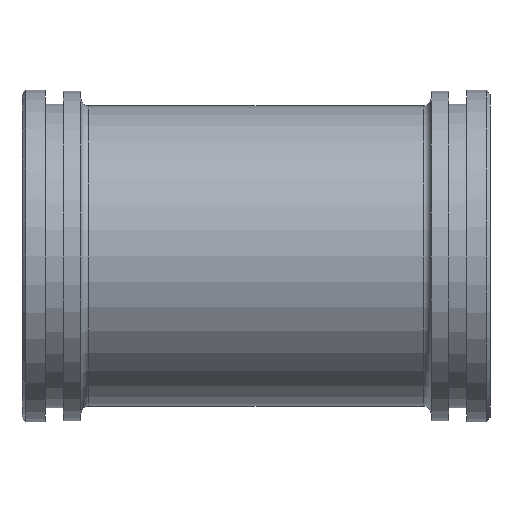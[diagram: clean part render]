
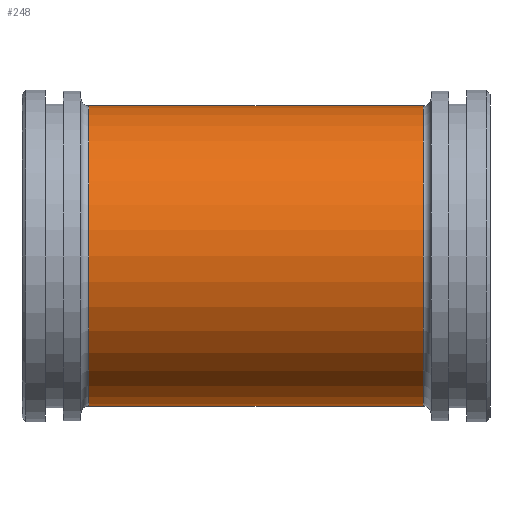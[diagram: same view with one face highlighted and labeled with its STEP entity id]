
A CAD part, front view. The second image highlights one B-rep face of the part: STEP entity #248.
In plain terms, the highlighted cylindrical face has radius 38.5 mm (diameter 77 mm), a full revolution.
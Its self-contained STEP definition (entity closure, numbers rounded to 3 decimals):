
#20=CYLINDRICAL_SURFACE($,#289,38.5);
#50=FACE_BOUND($,#106,.T.);
#69=FACE_OUTER_BOUND($,#105,.T.);
#105=EDGE_LOOP($,(#215));
#106=EDGE_LOOP($,(#216));
#134=CIRCLE($,#288,38.5);
#135=CIRCLE($,#290,38.5);
#156=VERTEX_POINT($,#438);
#157=VERTEX_POINT($,#441);
#178=EDGE_CURVE($,#156,#156,#134,.T.);
#179=EDGE_CURVE($,#157,#157,#135,.T.);
#215=ORIENTED_EDGE($,*,*,#179,.F.);
#216=ORIENTED_EDGE($,*,*,#178,.T.);
#248=ADVANCED_FACE($,(#69,#50),#20,.T.);
#288=AXIS2_PLACEMENT_3D($,#439,#364,#365);
#289=AXIS2_PLACEMENT_3D($,#440,#366,#367);
#290=AXIS2_PLACEMENT_3D($,#442,#368,#369);
#364=DIRECTION('center_axis',(1.,0.,0.));
#365=DIRECTION('ref_axis',(0.,1.,0.));
#366=DIRECTION('center_axis',(1.,0.,0.));
#367=DIRECTION('ref_axis',(0.,1.,0.));
#368=DIRECTION('center_axis',(1.,0.,0.));
#369=DIRECTION('ref_axis',(0.,1.,0.));
#438=CARTESIAN_POINT('',(-42.9,38.5,0.));
#439=CARTESIAN_POINT('Origin',(-42.9,0.,0.));
#440=CARTESIAN_POINT('Origin',(0.,0.,0.));
#441=CARTESIAN_POINT('',(42.9,38.5,0.));
#442=CARTESIAN_POINT('Origin',(42.9,0.,0.));
